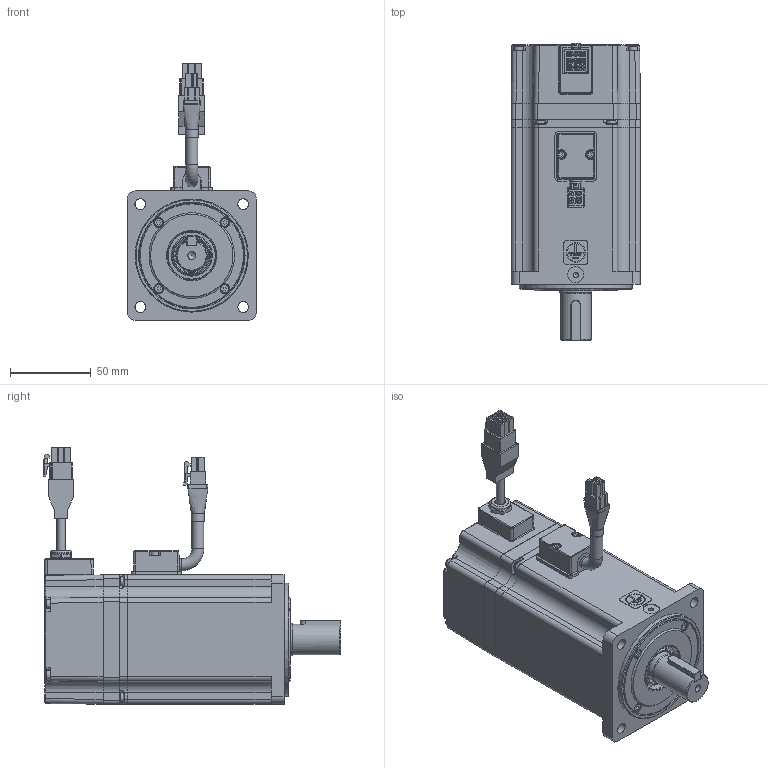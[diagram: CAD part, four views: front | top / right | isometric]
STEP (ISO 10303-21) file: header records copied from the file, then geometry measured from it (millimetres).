
FILE_DESCRIPTION( ( 'Unknown' ), '1' );
FILE_NAME( 'Y:/Archivio_Tecnico/04_Archivio MPC Italia/04_Gamma prodotti MPC/TC-E (BQ)/03_Disegni/151104-AL TCE - 2D dxf e 3D step/TCE80/TCE80 3B XX 3 A1 0 D0.stp', 'Unknown', ( 'Unknown' ), ( 'Unknown' ), 'PSStep 17.0.49', 'Unknown', ' ' );
FILE_SCHEMA( ( 'AUTOMOTIVE_DESIGN { 1 0 10303 214 1 1 1 1 }' ) );
Length unit declared in the file: millimetre
Products named in the file (58): 003108020178_dritto; 005603001018; 003303000021; 005711000200; 005711000200-oa5; 003108015151_curva; 003303000375; 005453000452_D7,4; 007102000213; 001107000619; U5120002_vuoto; 001799000503; 005911000598; 003120002505; Assem1; 005204000001; 005204000002; 005008000690-oa0; 005008000690-oa1; 005008000690-oa2; 005008000740-oa3; 005008000908-oa4; 003103001502; 005007000122; 005119001502; 005123000690; 005123000800; 005911000182; 005911003621; 005204000003; 003251022002; 005113000492; 003155000303; 003155002051; 005911000192; 003003050088
Assembly tree (71 placements, depth 4):
  Assem1
    005204000001
    005204000002
    005008000690-oa0
    005008000690-oa1
    005008000690-oa2
    005008000740-oa3
    005008000908-oa4
    003103001502
    005007000122
    005119001502
    005119001502
    005123000690
    005123000690
    005123000690
    005123000690
    005123000690
    005123000690
    005123000690
    005123000690
    005123000800
    005123000800
    005123000800
    005123000800
    005123000800
    005123000800
    005123000800
    005123000800
    005123000800
    005911000182  x4
    005911003621  x8
    005204000003
    003251022002
    005113000492
    003155000303
    003155002051
    005911000192  x4
    003003050088
    007102000213
      001107000619
      003108020178_dritto
        005603001018
        003303000021
        005711000200
        005711000200-oa5
        003108020178_dritto
        003108020178_dritto
    U5120002_vuoto
      001799000503
      005911000598  x2
      003120002505
      003120002505
      003108015151_curva
        003303000375
        005453000452_D7,4
        003108015151_curva
        003108015151_curva
        003108015151_curva
Bounding box: 80.3 x 183.9 x 158.7 mm (x, y, z)
Volume: 365304.7 mm3; surface area: 206369.3 mm2
Topology: 67 solids, 67 shells, 2273 faces, 5590 edges, 3564 vertices
Faces by surface type: plane 1302, cylinder 492, torus 143, bspline 121, cone 117, sphere 61, extrusion 37
Full cylindrical faces by diameter (mm): 2.013 x3, 2.459 x30, 2.5 x2, 2.6 x9, 2.7 x2, 3 x16, 3.242 x4, 3.5 x20, 4.7 x3, 4.917 x2, 5 x1, 5.2 x1, 5.3 x2, 5.5 x18, 6.1 x1, 7 x1, 7.4 x2, 7.41 x1, 8 x1, 8.01 x1, 10 x3, 10.3 x2, 10.647 x1, 11 x1, 12 x3, 12.7 x1, 14.99 x1, 15 x2, 19 x2, 19.99 x1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
Entity records: 85448 total; most frequent: CARTESIAN_POINT 21371, DIRECTION 9595, ORIENTED_EDGE 9376, EDGE_CURVE 4688, AXIS2_PLACEMENT_3D 3284, VERTEX_POINT 3216, VECTOR 3027, LINE 2990
